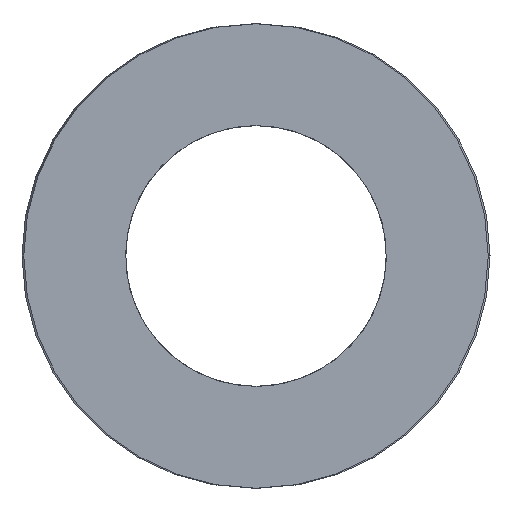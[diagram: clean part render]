
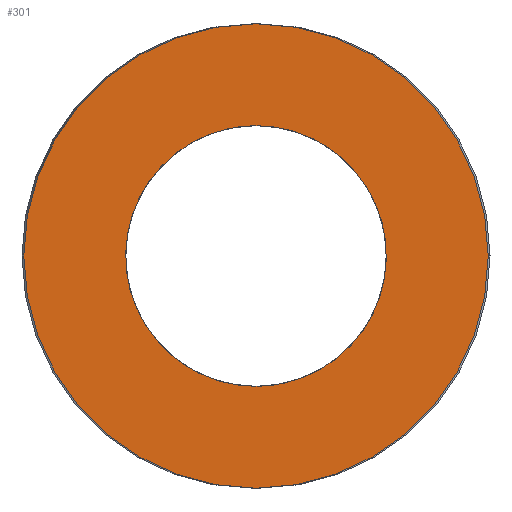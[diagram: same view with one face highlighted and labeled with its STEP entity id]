
A CAD part, left-side view. The second image highlights one B-rep face of the part: STEP entity #301.
In plain terms, the highlighted planar face has unit normal (-1, 0, 0).
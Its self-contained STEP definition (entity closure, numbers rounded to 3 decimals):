
#63=CARTESIAN_POINT('Vertex',(0.,15.5,0.)) ;
#77=CARTESIAN_POINT('Vertex',(0.,-15.5,0.)) ;
#80=CARTESIAN_POINT('Axis2P3D Location',(0.,0.,0.)) ;
#97=CARTESIAN_POINT('Axis2P3D Location',(0.,0.,0.)) ;
#232=CARTESIAN_POINT('Axis2P3D Location',(0.,7.75,0.)) ;
#242=CARTESIAN_POINT('Control Point',(0.,0.,-8.7)) ;
#243=CARTESIAN_POINT('Control Point',(0.,0.867,-8.7)) ;
#244=CARTESIAN_POINT('Control Point',(0.,1.734,-8.592)) ;
#245=CARTESIAN_POINT('Control Point',(0.,2.583,-8.376)) ;
#246=CARTESIAN_POINT('Control Point',(0.,4.209,-7.737)) ;
#247=CARTESIAN_POINT('Control Point',(0.,5.629,-6.719)) ;
#248=CARTESIAN_POINT('Control Point',(0.,6.272,-6.123)) ;
#249=CARTESIAN_POINT('Control Point',(0.,7.395,-4.785)) ;
#250=CARTESIAN_POINT('Control Point',(0.,8.156,-3.211)) ;
#251=CARTESIAN_POINT('Control Point',(0.,8.436,-2.381)) ;
#252=CARTESIAN_POINT('Control Point',(0.,8.783,-0.669)) ;
#253=CARTESIAN_POINT('Control Point',(0.,8.699,1.077)) ;
#254=CARTESIAN_POINT('Control Point',(0.,8.548,1.94)) ;
#255=CARTESIAN_POINT('Control Point',(0.,8.034,3.61)) ;
#256=CARTESIAN_POINT('Control Point',(0.,7.127,5.103)) ;
#257=CARTESIAN_POINT('Control Point',(0.,6.581,5.789)) ;
#258=CARTESIAN_POINT('Control Point',(0.,5.332,7.011)) ;
#259=CARTESIAN_POINT('Control Point',(0.,3.821,7.888)) ;
#260=CARTESIAN_POINT('Control Point',(0.,3.015,8.231)) ;
#261=CARTESIAN_POINT('Control Point',(0.,1.918,8.541)) ;
#262=CARTESIAN_POINT('Control Point',(0.,0.793,8.67)) ;
#263=CARTESIAN_POINT('Control Point',(0.,0.529,8.69)) ;
#264=CARTESIAN_POINT('Control Point',(0.,0.264,8.7)) ;
#265=CARTESIAN_POINT('Control Point',(0.,0.,8.7)) ;
#266=CARTESIAN_POINT('Vertex',(0.,0.,-8.7)) ;
#268=CARTESIAN_POINT('Vertex',(0.,0.,8.7)) ;
#272=CARTESIAN_POINT('Control Point',(0.,0.,8.7)) ;
#273=CARTESIAN_POINT('Control Point',(0.,-0.867,8.7)) ;
#274=CARTESIAN_POINT('Control Point',(0.,-1.734,8.592)) ;
#275=CARTESIAN_POINT('Control Point',(0.,-2.583,8.376)) ;
#276=CARTESIAN_POINT('Control Point',(0.,-4.209,7.737)) ;
#277=CARTESIAN_POINT('Control Point',(0.,-5.629,6.719)) ;
#278=CARTESIAN_POINT('Control Point',(0.,-6.272,6.123)) ;
#279=CARTESIAN_POINT('Control Point',(0.,-7.395,4.785)) ;
#280=CARTESIAN_POINT('Control Point',(0.,-8.156,3.211)) ;
#281=CARTESIAN_POINT('Control Point',(0.,-8.436,2.381)) ;
#282=CARTESIAN_POINT('Control Point',(0.,-8.783,0.669)) ;
#283=CARTESIAN_POINT('Control Point',(0.,-8.699,-1.077)) ;
#284=CARTESIAN_POINT('Control Point',(0.,-8.548,-1.94)) ;
#285=CARTESIAN_POINT('Control Point',(0.,-8.034,-3.61)) ;
#286=CARTESIAN_POINT('Control Point',(0.,-7.127,-5.103)) ;
#287=CARTESIAN_POINT('Control Point',(0.,-6.581,-5.789)) ;
#288=CARTESIAN_POINT('Control Point',(0.,-5.332,-7.011)) ;
#289=CARTESIAN_POINT('Control Point',(0.,-3.821,-7.888)) ;
#290=CARTESIAN_POINT('Control Point',(0.,-3.015,-8.231)) ;
#291=CARTESIAN_POINT('Control Point',(0.,-1.918,-8.541)) ;
#292=CARTESIAN_POINT('Control Point',(0.,-0.793,-8.67)) ;
#293=CARTESIAN_POINT('Control Point',(0.,-0.529,-8.69)) ;
#294=CARTESIAN_POINT('Control Point',(0.,-0.264,-8.7)) ;
#295=CARTESIAN_POINT('Control Point',(0.,0.,-8.7)) ;
#81=DIRECTION('Axis2P3D Direction',(1.,-0.,0.)) ;
#98=DIRECTION('Axis2P3D Direction',(1.,-0.,0.)) ;
#233=DIRECTION('Axis2P3D Direction',(-1.,0.,0.)) ;
#234=DIRECTION('Axis2P3D XDirection',(0.,1.,0.)) ;
#82=AXIS2_PLACEMENT_3D('Circle Axis2P3D',#80,#81,$) ;
#99=AXIS2_PLACEMENT_3D('Circle Axis2P3D',#97,#98,$) ;
#235=AXIS2_PLACEMENT_3D('Plane Axis2P3D',#232,#233,#234) ;
#238=ORIENTED_EDGE('',*,*,#84,.T.) ;
#239=ORIENTED_EDGE('',*,*,#101,.T.) ;
#298=ORIENTED_EDGE('',*,*,#270,.T.) ;
#299=ORIENTED_EDGE('',*,*,#296,.T.) ;
#300=FACE_BOUND('',#297,.T.) ;
#301=ADVANCED_FACE('392-B32-178',(#240,#300),#236,.T.) ;
#241=B_SPLINE_CURVE_WITH_KNOTS('',5,(#242,#243,#244,#245,#246,#247,#248,#249,#250,#251,#252,#253,#254,#255,#256,#257,#258,#259,#260,#261,#262,#263,#264,#265),.UNSPECIFIED.,.F.,.U.,(6,3,3,3,3,3,3,6),(0.,6.131,12.261,18.392,24.522,30.653,36.783,38.652),.UNSPECIFIED.) ;
#271=B_SPLINE_CURVE_WITH_KNOTS('',5,(#272,#273,#274,#275,#276,#277,#278,#279,#280,#281,#282,#283,#284,#285,#286,#287,#288,#289,#290,#291,#292,#293,#294,#295),.UNSPECIFIED.,.F.,.U.,(6,3,3,3,3,3,3,6),(0.,6.131,12.261,18.392,24.522,30.653,36.783,38.652),.UNSPECIFIED.) ;
#83=CIRCLE('generated circle',#82,15.5) ;
#100=CIRCLE('generated circle',#99,15.5) ;
#84=EDGE_CURVE('',#64,#78,#83,.F.) ;
#101=EDGE_CURVE('',#78,#64,#100,.F.) ;
#270=EDGE_CURVE('',#267,#269,#241,.T.) ;
#296=EDGE_CURVE('',#269,#267,#271,.T.) ;
#237=EDGE_LOOP('',(#238,#239)) ;
#297=EDGE_LOOP('',(#298,#299)) ;
#240=FACE_OUTER_BOUND('',#237,.T.) ;
#236=PLANE('Plane',#235) ;
#64=VERTEX_POINT('',#63) ;
#78=VERTEX_POINT('',#77) ;
#267=VERTEX_POINT('',#266) ;
#269=VERTEX_POINT('',#268) ;
